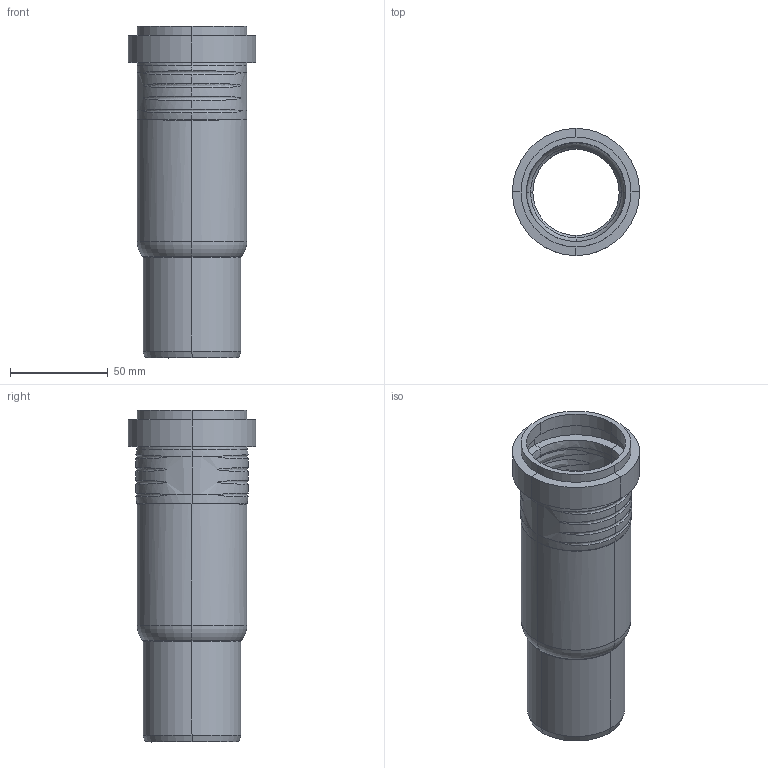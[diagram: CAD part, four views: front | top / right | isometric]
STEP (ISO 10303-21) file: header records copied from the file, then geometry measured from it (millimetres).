
FILE_DESCRIPTION(/* description */ (''),/* implementation_level */ '2;1');
FILE_NAME(/* name */ 'H:\Geberit-Teile\Export\Langmuffe PP\stp\393218.stp',/* time_stamp */ '2017-10-18T09:55:21+02:00',/* author */ ('seihe2'),/* organization */ (''),/* preprocessor_version */ 'ST-DEVELOPER v15.2',/* originating_system */ 'Autodesk Inventor 2014',/* authorisation */ '');
FILE_SCHEMA (('AUTOMOTIVE_DESIGN { 1 0 10303 214 3 1 1 }'));
Length unit declared in the file: millimetre
Products named in the file (1): 393218
Bounding box: 65.1 x 65.1 x 170 mm (x, y, z)
Volume: 82615.8 mm3; surface area: 59981 mm2
Topology: 1 solids, 1 shells, 134 faces, 308 edges, 167 vertices
Faces by surface type: bspline 60, cylinder 32, cone 28, torus 12, plane 2
Entity records: 7755 total; most frequent: CARTESIAN_POINT 4959, ORIENTED_EDGE 598, DIRECTION 484, EDGE_CURVE 299, AXIS2_PLACEMENT_3D 195, VERTEX_POINT 166, EDGE_LOOP 136, STYLED_ITEM 135
